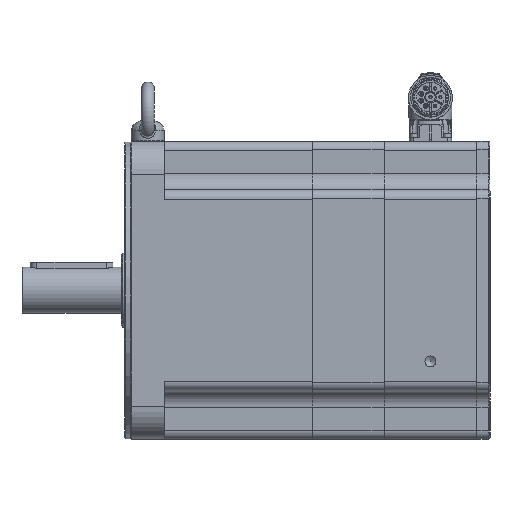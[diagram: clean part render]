
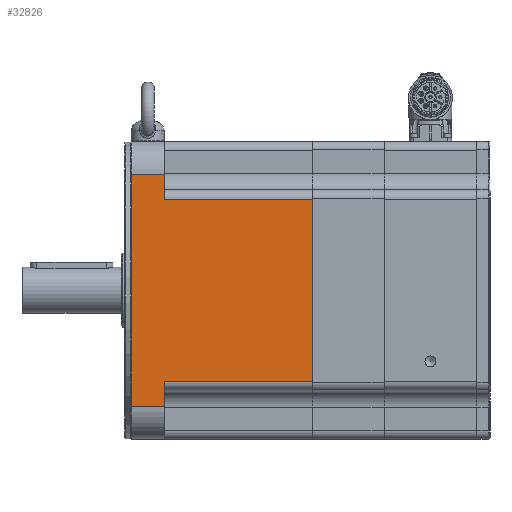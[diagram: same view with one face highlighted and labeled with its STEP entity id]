
A CAD part, left-side view. The second image highlights one B-rep face of the part: STEP entity #32826.
In plain terms, the highlighted planar face has unit normal (-1, 0, 0) as drawn and (1, 0, 0) by its records, which use the part's own axes.
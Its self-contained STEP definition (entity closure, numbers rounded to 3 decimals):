
#2449=PLANE('',#46757);
#12930=ORIENTED_EDGE('',*,*,#17713,.F.);
#12931=ORIENTED_EDGE('',*,*,#17781,.T.);
#12932=ORIENTED_EDGE('',*,*,#17749,.F.);
#12933=ORIENTED_EDGE('',*,*,#17782,.T.);
#12934=ORIENTED_EDGE('',*,*,#17783,.F.);
#12935=ORIENTED_EDGE('',*,*,#17784,.T.);
#12936=ORIENTED_EDGE('',*,*,#17769,.F.);
#12937=ORIENTED_EDGE('',*,*,#17785,.T.);
#17713=EDGE_CURVE('',#21026,#21027,#23252,.T.);
#17749=EDGE_CURVE('',#21062,#21063,#23266,.T.);
#17769=EDGE_CURVE('',#21082,#21083,#23273,.T.);
#17781=EDGE_CURVE('',#21026,#21063,#23281,.F.);
#17782=EDGE_CURVE('',#21062,#21090,#23282,.T.);
#17783=EDGE_CURVE('',#21091,#21090,#23283,.T.);
#17784=EDGE_CURVE('',#21091,#21083,#23284,.F.);
#17785=EDGE_CURVE('',#21082,#21027,#23285,.T.);
#21026=VERTEX_POINT('',#75099);
#21027=VERTEX_POINT('',#75101);
#21062=VERTEX_POINT('',#75179);
#21063=VERTEX_POINT('',#75181);
#21082=VERTEX_POINT('',#75226);
#21083=VERTEX_POINT('',#75227);
#21090=VERTEX_POINT('',#75251);
#21091=VERTEX_POINT('',#75253);
#23252=LINE('',#75100,#25442);
#23266=LINE('',#75180,#25456);
#23273=LINE('',#75225,#25463);
#23281=LINE('',#75249,#25471);
#23282=LINE('',#75250,#25472);
#23283=LINE('',#75252,#25473);
#23284=LINE('',#75254,#25474);
#23285=LINE('',#75255,#25475);
#25442=VECTOR('',#55510,1000.);
#25456=VECTOR('',#55584,1000.);
#25463=VECTOR('',#55629,1000.);
#25471=VECTOR('',#55653,1000.);
#25472=VECTOR('',#55654,1000.);
#25473=VECTOR('',#55655,1000.);
#25474=VECTOR('',#55656,1000.);
#25475=VECTOR('',#55657,1000.);
#27875=EDGE_LOOP('',(#12930,#12931,#12932,#12933,#12934,#12935,#12936,#12937));
#30353=FACE_BOUND('',#27875,.T.);
#32826=ADVANCED_FACE('',(#30353),#2449,.T.);
#46757=AXIS2_PLACEMENT_3D('',#75248,#55651,#55652);
#55510=DIRECTION('',(0.,0.,-1.));
#55584=DIRECTION('',(0.,0.,-1.));
#55629=DIRECTION('',(0.,0.,-1.));
#55651=DIRECTION('',(1.,0.,0.));
#55652=DIRECTION('',(0.,1.,0.));
#55653=DIRECTION('',(0.,1.,0.));
#55654=DIRECTION('',(0.,-1.,0.));
#55655=DIRECTION('',(0.,0.,1.));
#55656=DIRECTION('',(0.,-1.,0.));
#55657=DIRECTION('',(0.,1.,0.));
#75099=CARTESIAN_POINT('',(90.,110.8,55.2));
#75100=CARTESIAN_POINT('',(90.,110.8,-90.));
#75101=CARTESIAN_POINT('',(90.,110.8,-55.2));
#75179=CARTESIAN_POINT('',(90.,21.3,70.));
#75180=CARTESIAN_POINT('',(90.,21.3,-90.));
#75181=CARTESIAN_POINT('',(90.,21.3,55.2));
#75225=CARTESIAN_POINT('',(90.,21.3,-90.));
#75226=CARTESIAN_POINT('',(90.,21.3,-55.2));
#75227=CARTESIAN_POINT('',(90.,21.3,-70.));
#75248=CARTESIAN_POINT('',(90.,491.763,-90.));
#75249=CARTESIAN_POINT('',(90.,491.763,55.2));
#75250=CARTESIAN_POINT('',(90.,491.763,70.));
#75251=CARTESIAN_POINT('',(90.,1.3,70.));
#75252=CARTESIAN_POINT('',(90.,1.3,-90.));
#75253=CARTESIAN_POINT('',(90.,1.3,-70.));
#75254=CARTESIAN_POINT('',(90.,491.763,-70.));
#75255=CARTESIAN_POINT('',(90.,491.763,-55.2));
